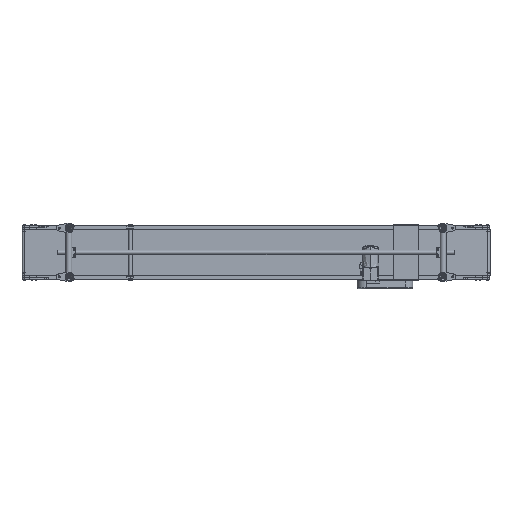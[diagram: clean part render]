
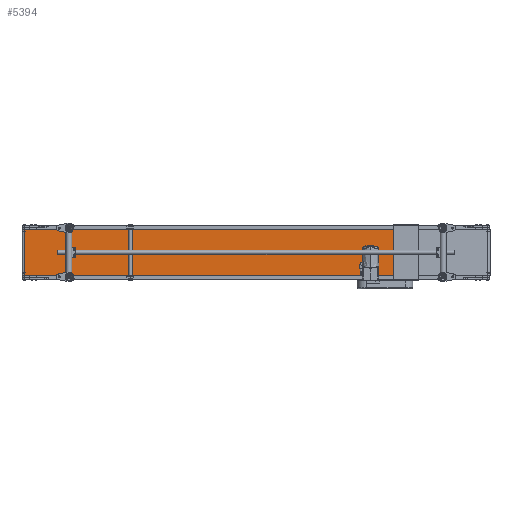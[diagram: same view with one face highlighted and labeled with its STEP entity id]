
A CAD part, front view. The second image highlights one B-rep face of the part: STEP entity #5394.
In plain terms, the highlighted planar face has unit normal (-0.008, -1, 0).
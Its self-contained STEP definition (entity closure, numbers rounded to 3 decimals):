
#5394=ADVANCED_FACE('',(#25032),#25031,.F.);
#25031=PLANE('',#39929);
#25032=FACE_OUTER_BOUND('',#39930,.T.);
#39926=CARTESIAN_POINT('',(-2996.417,-27.019,160.));
#39927=DIRECTION('',(0.008,1.,0.));
#39928=DIRECTION('',(1.,-0.008,0.));
#39929=AXIS2_PLACEMENT_3D('',#39926,#39927,#39928);
#39930=EDGE_LOOP('',(#50381,#50382,#50383,#50384));
#50381=ORIENTED_EDGE('',*,*,#56039,.T.);
#50382=ORIENTED_EDGE('',*,*,#56062,.F.);
#50383=ORIENTED_EDGE('',*,*,#56023,.F.);
#50384=ORIENTED_EDGE('',*,*,#56014,.T.);
#56014=EDGE_CURVE('',#87655,#87648,#87656,.T.);
#56023=EDGE_CURVE('',#87655,#87716,#87717,.T.);
#56039=EDGE_CURVE('',#87648,#87821,#87828,.T.);
#56062=EDGE_CURVE('',#87716,#87821,#87985,.T.);
#87648=VERTEX_POINT('',#112037);
#87655=VERTEX_POINT('',#112042);
#87656=LINE('',#112043,#112044);
#87716=VERTEX_POINT('',#112079);
#87717=LINE('',#112080,#112081);
#87821=VERTEX_POINT('',#112145);
#87828=LINE('',#112150,#112151);
#87985=LINE('',#112243,#112244);
#112037=CARTESIAN_POINT('',(-587.504,-46.4,150.));
#112042=CARTESIAN_POINT('',(-587.504,-46.4,-150.));
#112043=CARTESIAN_POINT('',(-587.504,-46.4,-150.));
#112044=VECTOR('',#112045,300.);
#112045=DIRECTION('',(0.,0.,1.));
#112079=CARTESIAN_POINT('',(-2986.417,-27.1,-150.));
#112080=CARTESIAN_POINT('',(-587.504,-46.4,-150.));
#112081=VECTOR('',#112082,2398.991);
#112082=DIRECTION('',(-1.,0.008,0.));
#112145=CARTESIAN_POINT('',(-2986.417,-27.1,150.));
#112150=CARTESIAN_POINT('',(-587.504,-46.4,150.));
#112151=VECTOR('',#112152,2398.991);
#112152=DIRECTION('',(-1.,0.008,0.));
#112243=CARTESIAN_POINT('',(-2986.417,-27.1,-150.));
#112244=VECTOR('',#112245,300.);
#112245=DIRECTION('',(0.,0.,1.));
